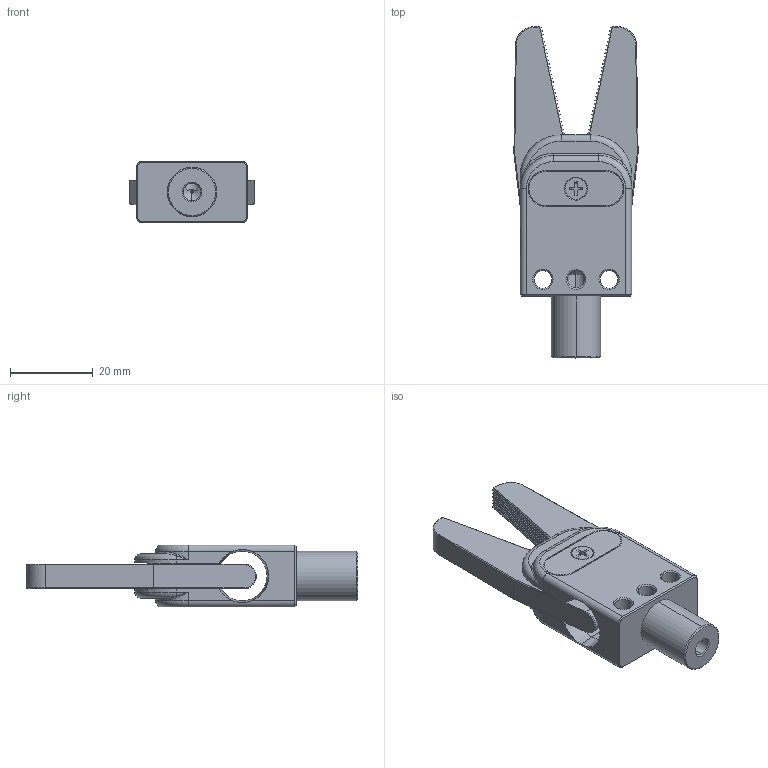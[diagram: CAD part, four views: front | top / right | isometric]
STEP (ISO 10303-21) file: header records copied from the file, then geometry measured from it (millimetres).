
FILE_DESCRIPTION (( 'STEP AP203' ), '1' );
FILE_NAME ('GR12A-12.STEP', '2024-10-21T03:56:22', ( '微软用户' ), ( '微软中国' ), 'SwSTEP 2.0', 'SolidWorks 2018', '' );
FILE_SCHEMA (( 'CONFIG_CONTROL_DESIGN' ));
Products named in the file (1): GR12A-12
Bounding box: 30.07 x 80.35 x 15 mm (x, y, z)
Volume: 14839.2 mm3; surface area: 10589.9 mm2
Topology: 7 solids, 7 shells, 1495 faces, 4222 edges, 2740 vertices
Faces by surface type: plane 1214, cone 140, cylinder 121, torus 12, bspline 8
Entity records: 47812 total; most frequent: CARTESIAN_POINT 8838, ORIENTED_EDGE 8436, DIRECTION 7573, EDGE_CURVE 4218, LINE 3775, VECTOR 3775, VERTEX_POINT 2740, AXIS2_PLACEMENT_3D 1899
